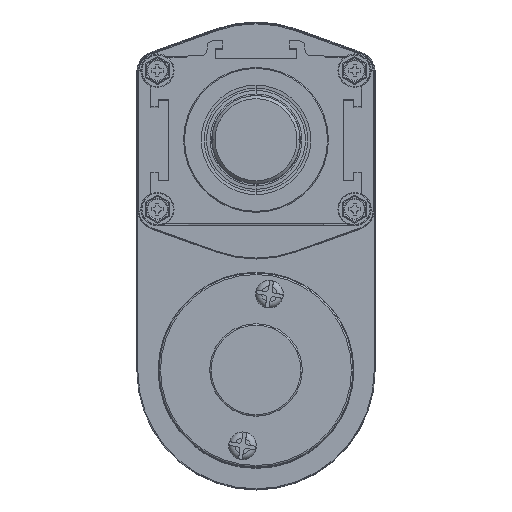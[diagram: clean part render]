
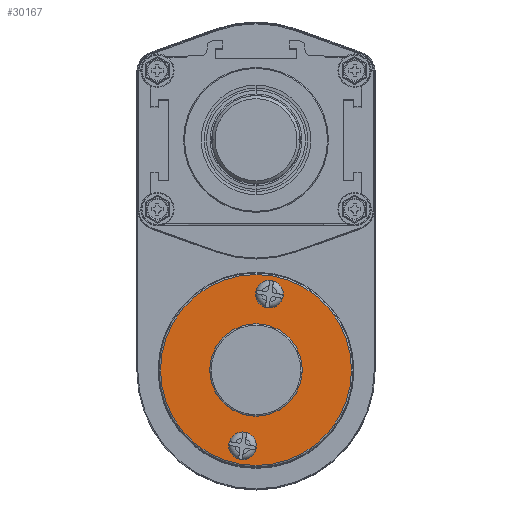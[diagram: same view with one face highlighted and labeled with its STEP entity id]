
A CAD part, top view. The second image highlights one B-rep face of the part: STEP entity #30167.
In plain terms, the highlighted planar face has unit normal (0, 0, 1).
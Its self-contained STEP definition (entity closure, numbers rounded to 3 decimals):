
#399 = EDGE_LOOP ( 'NONE', ( #52825, #45774 ) ) ;
#3049 = AXIS2_PLACEMENT_3D ( 'NONE', #27045, #68623, #62786 ) ;
#3441 = EDGE_LOOP ( 'NONE', ( #56184, #70491 ) ) ;
#4523 = DIRECTION ( 'NONE',  ( -0.174, -0.985, 0. ) ) ;
#4640 = FACE_BOUND ( 'NONE', #399, .T. ) ;
#6000 = VERTEX_POINT ( 'NONE', #56039 ) ;
#6318 = VERTEX_POINT ( 'NONE', #81466 ) ;
#6389 = FACE_OUTER_BOUND ( 'NONE', #60970, .T. ) ;
#6764 = DIRECTION ( 'NONE',  ( -0.174, -0.985, 0. ) ) ;
#8116 = CIRCLE ( 'NONE', #18177, 15. ) ;
#10519 = CARTESIAN_POINT ( 'NONE',  ( -13.407, -21.584, 284.9 ) ) ;
#10949 = CARTESIAN_POINT ( 'NONE',  ( -22.09, -70.824, 284.9 ) ) ;
#11082 = CIRCLE ( 'NONE', #25365, 4.5 ) ;
#11304 = ORIENTED_EDGE ( 'NONE', *, *, #16224, .T. ) ;
#11399 = DIRECTION ( 'NONE',  ( 0., 0., 1. ) ) ;
#11411 = VERTEX_POINT ( 'NONE', #86897 ) ;
#11601 = VERTEX_POINT ( 'NONE', #31225 ) ;
#14325 = AXIS2_PLACEMENT_3D ( 'NONE', #83412, #85167, #17115 ) ;
#16224 = EDGE_CURVE ( 'NONE', #6000, #11601, #17854, .T. ) ;
#16299 = CIRCLE ( 'NONE', #39186, 4.5 ) ;
#17115 = DIRECTION ( 'NONE',  ( -0.174, -0.985, 0. ) ) ;
#17854 = CIRCLE ( 'NONE', #19255, 31. ) ;
#18137 = DIRECTION ( 'NONE',  ( 0., 0., 1. ) ) ;
#18177 = AXIS2_PLACEMENT_3D ( 'NONE', #18448, #65906, #72624 ) ;
#18275 = ORIENTED_EDGE ( 'NONE', *, *, #64533, .F. ) ;
#18448 = CARTESIAN_POINT ( 'NONE',  ( -17.749, -46.204, 284.9 ) ) ;
#18794 = CARTESIAN_POINT ( 'NONE',  ( -21.308, -66.393, 284.9 ) ) ;
#19255 = AXIS2_PLACEMENT_3D ( 'NONE', #44542, #11399, #50823 ) ;
#20077 = CARTESIAN_POINT ( 'NONE',  ( -20.353, -60.976, 284.9 ) ) ;
#21931 = EDGE_CURVE ( 'NONE', #29438, #64053, #46527, .T. ) ;
#23111 = DIRECTION ( 'NONE',  ( 0., 0., 1. ) ) ;
#24325 = CIRCLE ( 'NONE', #14325, 4.5 ) ;
#25274 = FACE_BOUND ( 'NONE', #3441, .T. ) ;
#25365 = AXIS2_PLACEMENT_3D ( 'NONE', #65865, #81059, #4523 ) ;
#25639 = CIRCLE ( 'NONE', #55646, 4.5 ) ;
#26153 = CARTESIAN_POINT ( 'NONE',  ( -2.976, -48.809, 284.9 ) ) ;
#27045 = CARTESIAN_POINT ( 'NONE',  ( -17.749, -46.204, 284.9 ) ) ;
#27482 = PLANE ( 'NONE',  #54294 ) ;
#29438 = VERTEX_POINT ( 'NONE', #20077 ) ;
#29454 = AXIS2_PLACEMENT_3D ( 'NONE', #43217, #23111, #57529 ) ;
#30167 = ADVANCED_FACE ( 'NONE', ( #4640, #25274, #6389, #73584 ), #27482, .T. ) ;
#30257 = DIRECTION ( 'NONE',  ( -0.174, -0.985, 0. ) ) ;
#31225 = CARTESIAN_POINT ( 'NONE',  ( -12.365, -15.675, 284.9 ) ) ;
#31737 = EDGE_CURVE ( 'NONE', #11601, #6000, #48752, .T. ) ;
#33596 = VERTEX_POINT ( 'NONE', #18794 ) ;
#39186 = AXIS2_PLACEMENT_3D ( 'NONE', #10519, #18137, #6764 ) ;
#39881 = ORIENTED_EDGE ( 'NONE', *, *, #21931, .F. ) ;
#43217 = CARTESIAN_POINT ( 'NONE',  ( -17.749, -46.204, 284.9 ) ) ;
#43358 = EDGE_LOOP ( 'NONE', ( #39881, #18275 ) ) ;
#44542 = CARTESIAN_POINT ( 'NONE',  ( -17.749, -46.204, 284.9 ) ) ;
#45774 = ORIENTED_EDGE ( 'NONE', *, *, #54603, .F. ) ;
#46527 = CIRCLE ( 'NONE', #29454, 15. ) ;
#46922 = CARTESIAN_POINT ( 'NONE',  ( -15.144, -31.432, 284.9 ) ) ;
#47424 = VERTEX_POINT ( 'NONE', #64279 ) ;
#48752 = CIRCLE ( 'NONE', #3049, 31. ) ;
#49397 = EDGE_CURVE ( 'NONE', #47424, #6318, #11082, .T. ) ;
#50823 = DIRECTION ( 'NONE',  ( -0.174, -0.985, 0. ) ) ;
#52825 = ORIENTED_EDGE ( 'NONE', *, *, #76161, .F. ) ;
#54294 = AXIS2_PLACEMENT_3D ( 'NONE', #26153, #81174, #80295 ) ;
#54603 = EDGE_CURVE ( 'NONE', #11411, #33596, #24325, .T. ) ;
#55646 = AXIS2_PLACEMENT_3D ( 'NONE', #10949, #57952, #30257 ) ;
#56039 = CARTESIAN_POINT ( 'NONE',  ( -23.132, -76.733, 284.9 ) ) ;
#56184 = ORIENTED_EDGE ( 'NONE', *, *, #59193, .F. ) ;
#57529 = DIRECTION ( 'NONE',  ( -0.174, -0.985, 0. ) ) ;
#57952 = DIRECTION ( 'NONE',  ( 0., 0., 1. ) ) ;
#59193 = EDGE_CURVE ( 'NONE', #6318, #47424, #16299, .T. ) ;
#60970 = EDGE_LOOP ( 'NONE', ( #11304, #75410 ) ) ;
#62786 = DIRECTION ( 'NONE',  ( -0.174, -0.985, 0. ) ) ;
#64053 = VERTEX_POINT ( 'NONE', #46922 ) ;
#64279 = CARTESIAN_POINT ( 'NONE',  ( -14.189, -26.016, 284.9 ) ) ;
#64533 = EDGE_CURVE ( 'NONE', #64053, #29438, #8116, .T. ) ;
#65865 = CARTESIAN_POINT ( 'NONE',  ( -13.407, -21.584, 284.9 ) ) ;
#65906 = DIRECTION ( 'NONE',  ( 0., 0., 1. ) ) ;
#68623 = DIRECTION ( 'NONE',  ( 0., 0., 1. ) ) ;
#70491 = ORIENTED_EDGE ( 'NONE', *, *, #49397, .F. ) ;
#72624 = DIRECTION ( 'NONE',  ( -0.174, -0.985, 0. ) ) ;
#73584 = FACE_BOUND ( 'NONE', #43358, .T. ) ;
#75410 = ORIENTED_EDGE ( 'NONE', *, *, #31737, .T. ) ;
#76161 = EDGE_CURVE ( 'NONE', #33596, #11411, #25639, .T. ) ;
#80295 = DIRECTION ( 'NONE',  ( -0.174, -0.985, 0. ) ) ;
#81059 = DIRECTION ( 'NONE',  ( 0., 0., 1. ) ) ;
#81174 = DIRECTION ( 'NONE',  ( 0., 0., 1. ) ) ;
#81466 = CARTESIAN_POINT ( 'NONE',  ( -12.626, -17.152, 284.9 ) ) ;
#83412 = CARTESIAN_POINT ( 'NONE',  ( -22.09, -70.824, 284.9 ) ) ;
#85167 = DIRECTION ( 'NONE',  ( 0., 0., 1. ) ) ;
#86897 = CARTESIAN_POINT ( 'NONE',  ( -22.871, -75.256, 284.9 ) ) ;
